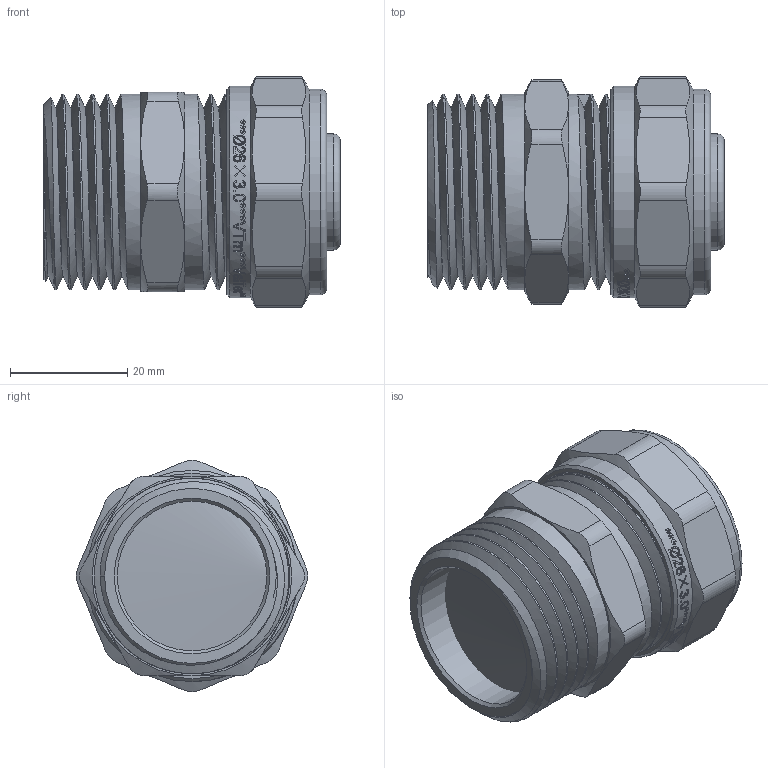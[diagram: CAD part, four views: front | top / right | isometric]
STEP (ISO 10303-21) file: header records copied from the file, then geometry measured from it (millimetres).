
FILE_DESCRIPTION(/* description */ (''),/* implementation_level */ '2;1');
FILE_NAME(/* name */ 'E:\Артём\00000\Работа удаленка\Обжимные фитинги\VTm.301.N.002606.stp',/* time_stamp */ '2020-05-21T16:17:56+03:00',/* author */ ('BeN_GaN'),/* organization */ (''),/* preprocessor_version */ 'ST-DEVELOPER v18',/* originating_system */ 'Autodesk Inventor 2020',/* authorisation */ '');
FILE_SCHEMA (('AUTOMOTIVE_DESIGN { 1 0 10303 214 3 1 1 }'));
Length unit declared in the file: millimetre
Products named in the file (1): VTm.301.N.002606
Bounding box: 50.5 x 39.39 x 39.39 mm (x, y, z)
Volume: 23499.1 mm3; surface area: 18373.3 mm2
Topology: 1 solids, 1 shells, 691 faces, 1952 edges, 1319 vertices
Faces by surface type: bspline 372, plane 170, cylinder 95, cone 30, torus 24
Full cylindrical faces by diameter (mm): 15 x1, 17.4 x2, 19.8 x5, 24.516 x4, 25.435 x5, 25.5 x1, 26.2 x1, 26.7 x1, 28.5 x1, 28.7 x8, 30.5 x1, 33.3 x7, 35 x1, 36 x1
Entity records: 30376 total; most frequent: CARTESIAN_POINT 14953, ORIENTED_EDGE 3904, DIRECTION 2014, EDGE_CURVE 1952, VERTEX_POINT 1319, B_SPLINE_CURVE_WITH_KNOTS 839, LINE 772, VECTOR 772
